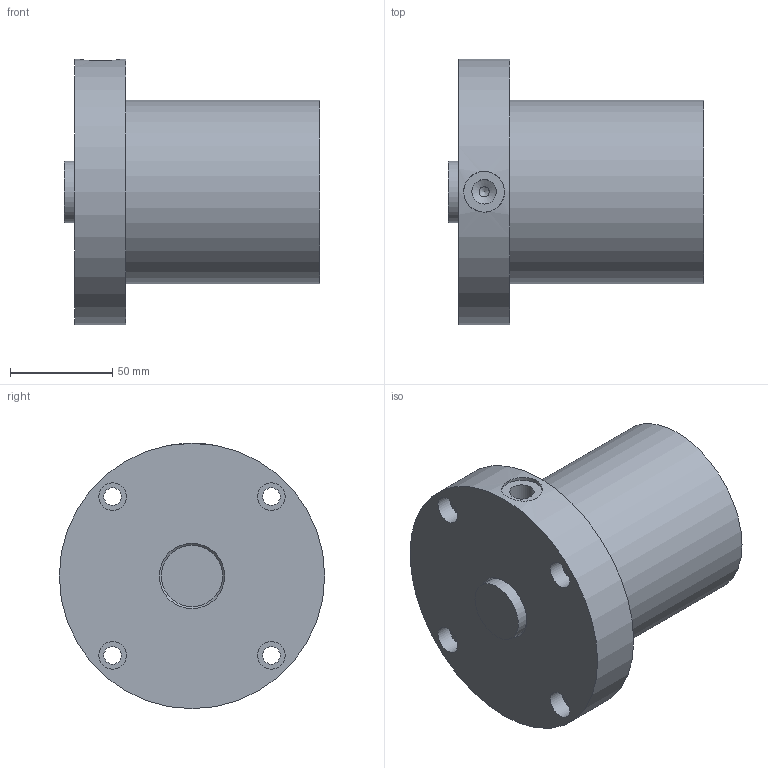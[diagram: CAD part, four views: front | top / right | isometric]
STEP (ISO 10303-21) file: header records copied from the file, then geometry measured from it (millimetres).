
FILE_DESCRIPTION( ( 'Unknown' ), '1' );
FILE_NAME( 'F:/JAKOB-STEP+IGES-Dateien/STEP-Dateien/ZDF/ZDFo 6300.stp', 'Unknown', ( 'Unknown' ), ( 'Unknown' ), 'XStep 1.0', 'Unknown', ' ' );
FILE_SCHEMA( ( 'CONFIG_CONTROL_DESIGN' ) );
Length unit declared in the file: millimetre
Products named in the file (1): 1
Bounding box: 125 x 130 x 130 mm (x, y, z)
Volume: 928160.6 mm3; surface area: 67961.6 mm2
Topology: 1 solids, 1 shells, 26 faces, 52 edges, 34 vertices
Faces by surface type: cylinder 14, plane 9, cone 3
Full cylindrical faces by diameter (mm): 5 x1, 8.6 x4, 12 x1, 13.5 x4, 20 x1, 30 x1, 90 x1, 130 x1
Entity records: 709 total; most frequent: CARTESIAN_POINT 180, DIRECTION 110, EDGE_LOOP 58, ORIENTED_EDGE 58, AXIS2_PLACEMENT_3D 55, FACE_OUTER_BOUND 40, VERTEX_POINT 30, EDGE_CURVE 29
